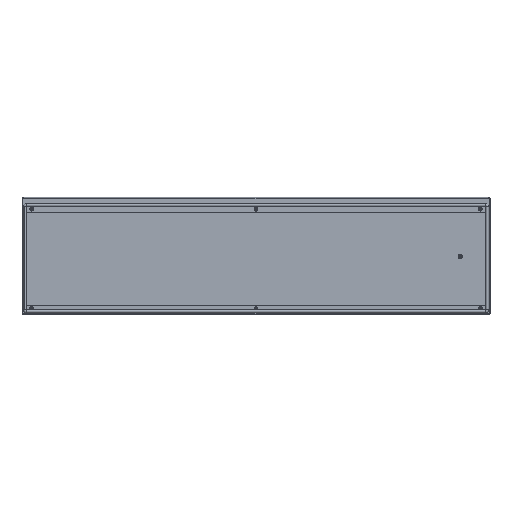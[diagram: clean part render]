
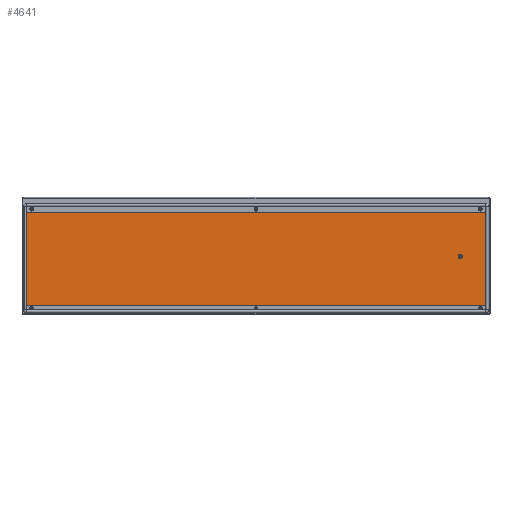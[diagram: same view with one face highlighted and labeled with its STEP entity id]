
A CAD part, top view. The second image highlights one B-rep face of the part: STEP entity #4641.
In plain terms, the highlighted planar face has unit normal (0, 0, 1).
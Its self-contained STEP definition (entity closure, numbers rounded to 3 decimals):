
#342 = LINE ( 'NONE', #5560, #4971 ) ;
#343 = CARTESIAN_POINT ( 'NONE',  ( -795.5, 195.5, 0. ) ) ;
#344 = DIRECTION ( 'NONE',  ( 1., 0., 0. ) ) ;
#345 = DIRECTION ( 'NONE',  ( 0., 0., 1. ) ) ;
#346 = DIRECTION ( 'NONE',  ( 0., 1., 0. ) ) ;
#347 = CARTESIAN_POINT ( 'NONE',  ( 798.5, -200., 0. ) ) ;
#348 = LINE ( 'NONE', #347, #4969 ) ;
#349 = CARTESIAN_POINT ( 'NONE',  ( 795.5, 195.5, 0. ) ) ;
#350 = DIRECTION ( 'NONE',  ( 1., 0., 0. ) ) ;
#351 = DIRECTION ( 'NONE',  ( 0., 0., 1. ) ) ;
#352 = DIRECTION ( 'NONE',  ( 1., 0., 0. ) ) ;
#353 = CARTESIAN_POINT ( 'NONE',  ( 800., -198.5, 0. ) ) ;
#354 = LINE ( 'NONE', #353, #4967 ) ;
#355 = DIRECTION ( 'NONE',  ( 0., -1., 0. ) ) ;
#356 = CARTESIAN_POINT ( 'NONE',  ( -798.5, -200., 0. ) ) ;
#357 = LINE ( 'NONE', #356, #4965 ) ;
#358 = CARTESIAN_POINT ( 'NONE',  ( 795.5, -195.5, 0. ) ) ;
#359 = DIRECTION ( 'NONE',  ( 1., 0., 0. ) ) ;
#360 = DIRECTION ( 'NONE',  ( 0., 0., 1. ) ) ;
#361 = CARTESIAN_POINT ( 'NONE',  ( -795.5, -195.5, 0. ) ) ;
#592 = DIRECTION ( 'NONE',  ( -1., 0., 0. ) ) ;
#593 = DIRECTION ( 'NONE',  ( 0., 0., -1. ) ) ;
#600 = CARTESIAN_POINT ( 'NONE',  ( 698.5, -1.5, 0. ) ) ;
#783 = CARTESIAN_POINT ( 'NONE',  ( -798.5, -195.5, 0. ) ) ;
#879 = CARTESIAN_POINT ( 'NONE',  ( 702.5, -1.5, 0. ) ) ;
#881 = CARTESIAN_POINT ( 'NONE',  ( 694.5, -1.5, 0. ) ) ;
#1283 = FACE_OUTER_BOUND ( 'NONE', #1945, .T. ) ;
#1289 = FACE_BOUND ( 'NONE', #1941, .T. ) ;
#1291 = AXIS2_PLACEMENT_3D ( 'NONE', #5092, #5089, #5093 ) ;
#1597 = CIRCLE ( 'NONE', #4966, 4. ) ;
#1598 = CIRCLE ( 'NONE', #4962, 3. ) ;
#1599 = CIRCLE ( 'NONE', #4963, 3. ) ;
#1600 = CIRCLE ( 'NONE', #4964, 3. ) ;
#1601 = CIRCLE ( 'NONE', #4961, 3. ) ;
#1648 = CIRCLE ( 'NONE', #4793, 4. ) ;
#1941 = EDGE_LOOP ( 'NONE', ( #3919, #3921 ) ) ;
#1945 = EDGE_LOOP ( 'NONE', ( #3910, #3912, #3911, #3913, #3914, #3915, #3916, #3917 ) ) ;
#3117 = CARTESIAN_POINT ( 'NONE',  ( -795.5, 198.5, 0. ) ) ;
#3128 = CARTESIAN_POINT ( 'NONE',  ( -798.5, 195.5, 0. ) ) ;
#3139 = CARTESIAN_POINT ( 'NONE',  ( -795.5, -198.5, 0. ) ) ;
#3144 = CARTESIAN_POINT ( 'NONE',  ( 795.5, 198.5, 0. ) ) ;
#3150 = CARTESIAN_POINT ( 'NONE',  ( 798.5, 195.5, 0. ) ) ;
#3151 = CARTESIAN_POINT ( 'NONE',  ( 798.5, -195.5, 0. ) ) ;
#3152 = CARTESIAN_POINT ( 'NONE',  ( 795.5, -198.5, 0. ) ) ;
#3424 = VERTEX_POINT ( 'NONE', #3152 ) ;
#3425 = VERTEX_POINT ( 'NONE', #3151 ) ;
#3426 = VERTEX_POINT ( 'NONE', #3150 ) ;
#3432 = VERTEX_POINT ( 'NONE', #3144 ) ;
#3437 = VERTEX_POINT ( 'NONE', #3139 ) ;
#3448 = VERTEX_POINT ( 'NONE', #3128 ) ;
#3459 = VERTEX_POINT ( 'NONE', #3117 ) ;
#3555 = VERTEX_POINT ( 'NONE', #881 ) ;
#3557 = VERTEX_POINT ( 'NONE', #879 ) ;
#3653 = VERTEX_POINT ( 'NONE', #783 ) ;
#3910 = ORIENTED_EDGE ( 'NONE', *, *, #4258, .T. ) ;
#3911 = ORIENTED_EDGE ( 'NONE', *, *, #4259, .T. ) ;
#3912 = ORIENTED_EDGE ( 'NONE', *, *, #4257, .T. ) ;
#3913 = ORIENTED_EDGE ( 'NONE', *, *, #4260, .T. ) ;
#3914 = ORIENTED_EDGE ( 'NONE', *, *, #4261, .T. ) ;
#3915 = ORIENTED_EDGE ( 'NONE', *, *, #4262, .T. ) ;
#3916 = ORIENTED_EDGE ( 'NONE', *, *, #4263, .T. ) ;
#3917 = ORIENTED_EDGE ( 'NONE', *, *, #4264, .T. ) ;
#3919 = ORIENTED_EDGE ( 'NONE', *, *, #4265, .T. ) ;
#3921 = ORIENTED_EDGE ( 'NONE', *, *, #4185, .T. ) ;
#4185 = EDGE_CURVE ( 'NONE', #3555, #3557, #1648, .T. ) ;
#4257 = EDGE_CURVE ( 'NONE', #3653, #3437, #1601, .T. ) ;
#4258 = EDGE_CURVE ( 'NONE', #3448, #3653, #357, .T. ) ;
#4259 = EDGE_CURVE ( 'NONE', #3437, #3424, #354, .T. ) ;
#4260 = EDGE_CURVE ( 'NONE', #3424, #3425, #1600, .T. ) ;
#4261 = EDGE_CURVE ( 'NONE', #3425, #3426, #348, .T. ) ;
#4262 = EDGE_CURVE ( 'NONE', #3426, #3432, #1599, .T. ) ;
#4263 = EDGE_CURVE ( 'NONE', #3432, #3459, #342, .T. ) ;
#4264 = EDGE_CURVE ( 'NONE', #3459, #3448, #1598, .T. ) ;
#4265 = EDGE_CURVE ( 'NONE', #3557, #3555, #1597, .T. ) ;
#4641 = ADVANCED_FACE ( 'NONE', ( #1283, #1289 ), #5090, .T. ) ;
#4793 = AXIS2_PLACEMENT_3D ( 'NONE', #600, #593, #592 ) ;
#4961 = AXIS2_PLACEMENT_3D ( 'NONE', #361, #360, #359 ) ;
#4962 = AXIS2_PLACEMENT_3D ( 'NONE', #343, #5558, #5557 ) ;
#4963 = AXIS2_PLACEMENT_3D ( 'NONE', #349, #345, #344 ) ;
#4964 = AXIS2_PLACEMENT_3D ( 'NONE', #358, #351, #350 ) ;
#4965 = VECTOR ( 'NONE', #355, 1000. ) ;
#4966 = AXIS2_PLACEMENT_3D ( 'NONE', #5556, #5555, #5554 ) ;
#4967 = VECTOR ( 'NONE', #352, 1000. ) ;
#4969 = VECTOR ( 'NONE', #346, 1000. ) ;
#4971 = VECTOR ( 'NONE', #5559, 1000. ) ;
#5089 = DIRECTION ( 'NONE',  ( 0., 0., 1. ) ) ;
#5090 = PLANE ( 'NONE',  #1291 ) ;
#5092 = CARTESIAN_POINT ( 'NONE',  ( 0., 0., 0. ) ) ;
#5093 = DIRECTION ( 'NONE',  ( 1., 0., 0. ) ) ;
#5554 = DIRECTION ( 'NONE',  ( -1., 0., 0. ) ) ;
#5555 = DIRECTION ( 'NONE',  ( 0., 0., -1. ) ) ;
#5556 = CARTESIAN_POINT ( 'NONE',  ( 698.5, -1.5, 0. ) ) ;
#5557 = DIRECTION ( 'NONE',  ( 1., 0., 0. ) ) ;
#5558 = DIRECTION ( 'NONE',  ( 0., 0., 1. ) ) ;
#5559 = DIRECTION ( 'NONE',  ( -1., 0., 0. ) ) ;
#5560 = CARTESIAN_POINT ( 'NONE',  ( 800., 198.5, 0. ) ) ;
